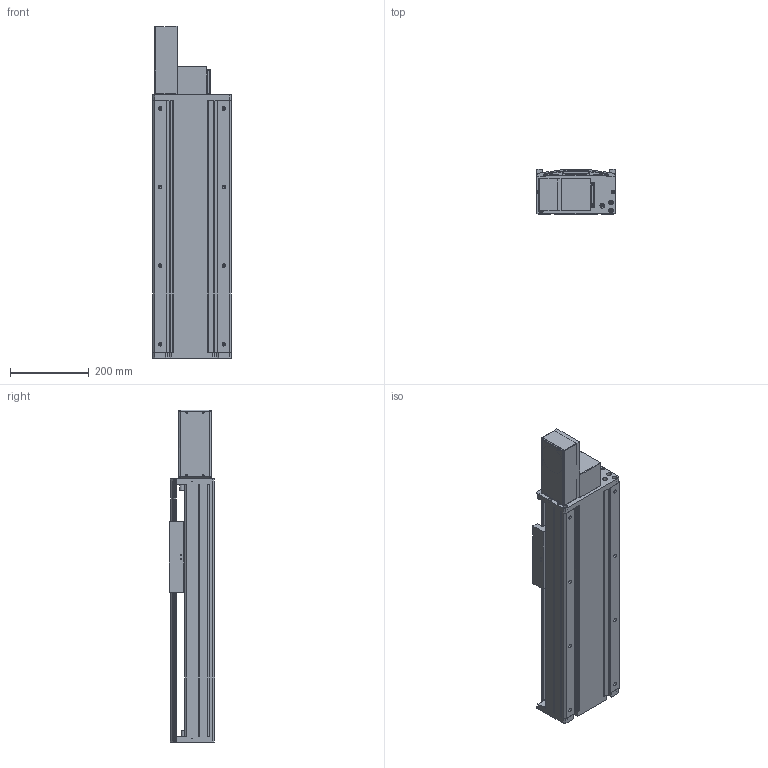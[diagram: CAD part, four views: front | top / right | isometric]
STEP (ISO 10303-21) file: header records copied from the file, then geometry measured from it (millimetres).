
FILE_DESCRIPTION(/* description */ (''),/* implementation_level */ '2;1');
FILE_NAME(/* name */ 'TKB200-FR-400_asm1.stp',/* time_stamp */ '2016-05-18T11:42:01+08:00',/* author */ (''),/* organization */ (''),/* preprocessor_version */ 'ST-DEVELOPER v15',/* originating_system */ 'SIEMENS PLM Software NX 8.5',/* authorisation */ '');
FILE_SCHEMA (('AUTOMOTIVE_DESIGN { 1 0 10303 214 3 1 1 1 }'));
Length unit declared in the file: millimetre
Products named in the file (3): 200-2; 200-1; TKB200-FR-400_asm1
Assembly tree (2 placements, depth 2):
  TKB200-FR-400_asm1
    200-1
    200-2
Bounding box: 200 x 115 x 845 mm (x, y, z)
Volume: 5267688.5 mm3; surface area: 1565527.5 mm2
Topology: 2 solids, 3 shells, 988 faces, 2767 edges, 1778 vertices
Faces by surface type: plane 465, cylinder 437, cone 70, bspline 16
Full cylindrical faces by diameter (mm): 2.5 x2, 3.3 x16, 4.3 x4, 4.5 x8, 5 x2, 6.6 x34, 6.8 x8, 8 x6, 9 x16, 10 x4, 11 x22, 12 x16, 14 x8, 75 x1
Entity records: 32947 total; most frequent: CARTESIAN_POINT 8211, DIRECTION 5106, ORIENTED_EDGE 4928, EDGE_CURVE 2464, AXIS2_PLACEMENT_3D 1845, VERTEX_POINT 1694, LINE 1416, VECTOR 1416
